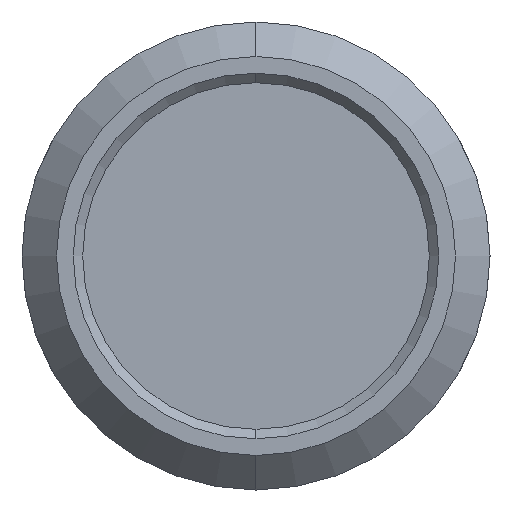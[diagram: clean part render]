
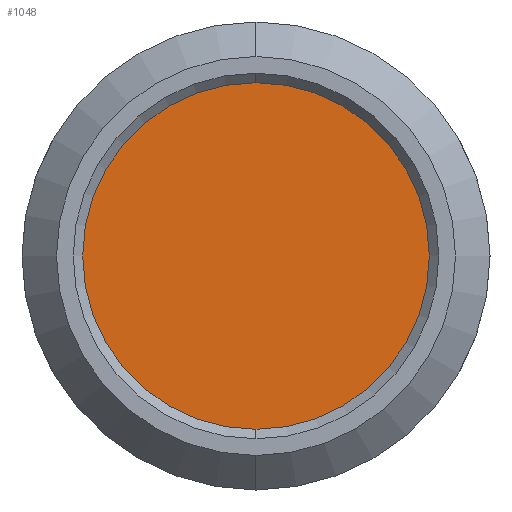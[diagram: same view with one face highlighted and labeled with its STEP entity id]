
A CAD part, left-side view. The second image highlights one B-rep face of the part: STEP entity #1048.
In plain terms, the highlighted planar face has unit normal (-1, 0, 0).
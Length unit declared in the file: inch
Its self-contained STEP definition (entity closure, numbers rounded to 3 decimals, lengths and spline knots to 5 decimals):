
#28 = CARTESIAN_POINT ( 'NONE',  ( 0.076, 0., 0.09123 ) ) ;
#76 = EDGE_LOOP ( 'NONE', ( #345, #389 ) ) ;
#153 = DIRECTION ( 'NONE',  ( -1., 0., 0. ) ) ;
#171 = PLANE ( 'NONE',  #1468 ) ;
#275 = FACE_OUTER_BOUND ( 'NONE', #76, .T. ) ;
#345 = ORIENTED_EDGE ( 'NONE', *, *, #416, .T. ) ;
#371 = CARTESIAN_POINT ( 'NONE',  ( 0.076, 0., -0.09123 ) ) ;
#389 = ORIENTED_EDGE ( 'NONE', *, *, #1405, .T. ) ;
#410 = DIRECTION ( 'NONE',  ( 0., 0., -1. ) ) ;
#416 = EDGE_CURVE ( 'NONE', #568, #716, #663, .T. ) ;
#526 = CARTESIAN_POINT ( 'NONE',  ( 0.076, 0., -0.07988 ) ) ;
#568 = VERTEX_POINT ( 'NONE', #28 ) ;
#584 = DIRECTION ( 'NONE',  ( -1., 0., 0. ) ) ;
#663 = CIRCLE ( 'NONE', #1268, 0.09123 ) ;
#689 = CARTESIAN_POINT ( 'NONE',  ( 0.076, 0., 0. ) ) ;
#716 = VERTEX_POINT ( 'NONE', #371 ) ;
#785 = AXIS2_PLACEMENT_3D ( 'NONE', #689, #584, #1244 ) ;
#835 = DIRECTION ( 'NONE',  ( 0., 0., 1. ) ) ;
#956 = CARTESIAN_POINT ( 'NONE',  ( 0.076, 0., 0. ) ) ;
#1048 = ADVANCED_FACE ( 'NONE', ( #275 ), #171, .F. ) ;
#1104 = CIRCLE ( 'NONE', #785, 0.09123 ) ;
#1192 = DIRECTION ( 'NONE',  ( 1., 0., 0. ) ) ;
#1244 = DIRECTION ( 'NONE',  ( 0., 0., 1. ) ) ;
#1268 = AXIS2_PLACEMENT_3D ( 'NONE', #956, #153, #835 ) ;
#1405 = EDGE_CURVE ( 'NONE', #716, #568, #1104, .T. ) ;
#1468 = AXIS2_PLACEMENT_3D ( 'NONE', #526, #1192, #410 ) ;
